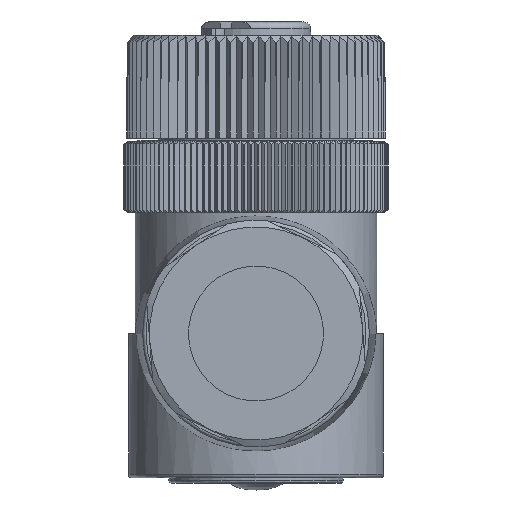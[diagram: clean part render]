
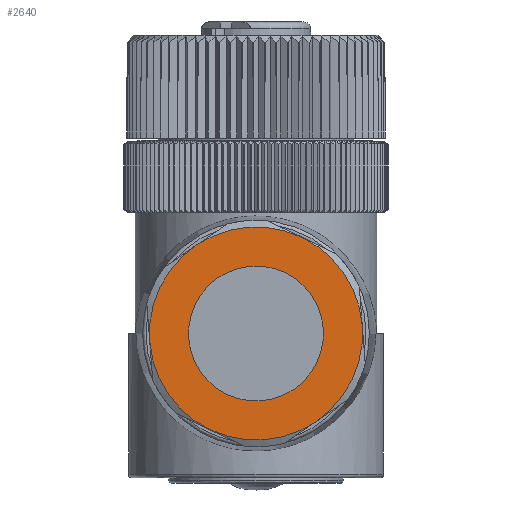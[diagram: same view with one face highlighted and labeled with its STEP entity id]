
A CAD part, front view. The second image highlights one B-rep face of the part: STEP entity #2640.
In plain terms, the highlighted planar face has unit normal (0, -1, 0).
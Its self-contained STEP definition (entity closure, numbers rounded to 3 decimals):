
#1995=CARTESIAN_POINT('',(-4.46,-30.,17.221));
#1996=VERTEX_POINT('',#1995);
#2019=CARTESIAN_POINT('',(-7.877,-30.,10.098));
#2020=VERTEX_POINT('',#2019);
#2034=CARTESIAN_POINT('',(0.0,-30.,10.7));
#2035=DIRECTION('',(0.,-1.,0.));
#2036=DIRECTION('',(0.076,0.,-0.997));
#2037=AXIS2_PLACEMENT_3D('',#2034,#2035,#2036);
#2038=CIRCLE('',#2037,7.9);
#2039=EDGE_CURVE('',#1996,#2020,#2038,.T.);
#2051=CARTESIAN_POINT('',(3.417,-30.,17.823));
#2052=VERTEX_POINT('',#2051);
#2088=CARTESIAN_POINT('',(0.0,-30.,10.7));
#2089=DIRECTION('',(0.,-1.,0.));
#2090=DIRECTION('',(0.076,0.,-0.997));
#2091=AXIS2_PLACEMENT_3D('',#2088,#2089,#2090);
#2092=CIRCLE('',#2091,7.9);
#2093=EDGE_CURVE('',#2052,#1996,#2092,.T.);
#2105=CARTESIAN_POINT('',(7.877,-30.,11.302));
#2106=VERTEX_POINT('',#2105);
#2142=CARTESIAN_POINT('',(0.0,-30.,10.7));
#2143=DIRECTION('',(0.,-1.,0.));
#2144=DIRECTION('',(0.076,0.,-0.997));
#2145=AXIS2_PLACEMENT_3D('',#2142,#2143,#2144);
#2146=CIRCLE('',#2145,7.9);
#2147=EDGE_CURVE('',#2106,#2052,#2146,.T.);
#2172=CARTESIAN_POINT('',(4.46,-30.,4.179));
#2173=VERTEX_POINT('',#2172);
#2174=CARTESIAN_POINT('',(0.0,-30.,10.7));
#2175=DIRECTION('',(0.,-1.,0.));
#2176=DIRECTION('',(0.076,0.,-0.997));
#2177=AXIS2_PLACEMENT_3D('',#2174,#2175,#2176);
#2178=CIRCLE('',#2177,7.9);
#2179=EDGE_CURVE('',#2173,#2106,#2178,.T.);
#2226=CARTESIAN_POINT('',(-3.417,-30.,3.577));
#2227=VERTEX_POINT('',#2226);
#2228=CARTESIAN_POINT('',(0.0,-30.,10.7));
#2229=DIRECTION('',(0.,-1.,0.));
#2230=DIRECTION('',(0.076,0.,-0.997));
#2231=AXIS2_PLACEMENT_3D('',#2228,#2229,#2230);
#2232=CIRCLE('',#2231,7.9);
#2233=EDGE_CURVE('',#2227,#2173,#2232,.T.);
#2280=CARTESIAN_POINT('',(0.0,-30.,10.7));
#2281=DIRECTION('',(0.,-1.,0.));
#2282=DIRECTION('',(0.076,0.,-0.997));
#2283=AXIS2_PLACEMENT_3D('',#2280,#2281,#2282);
#2284=CIRCLE('',#2283,7.9);
#2285=EDGE_CURVE('',#2020,#2227,#2284,.T.);
#2616=CARTESIAN_POINT('',(0.,-30.,10.7));
#2617=DIRECTION('',(0.0,1.0,0.0));
#2618=DIRECTION('',(0.997,0.0,0.076));
#2619=AXIS2_PLACEMENT_3D('',#2616,#2617,#2618);
#2620=PLANE('',#2619);
#2621=ORIENTED_EDGE('',*,*,#2285,.T.);
#2622=ORIENTED_EDGE('',*,*,#2233,.T.);
#2623=ORIENTED_EDGE('',*,*,#2179,.T.);
#2624=ORIENTED_EDGE('',*,*,#2147,.T.);
#2625=ORIENTED_EDGE('',*,*,#2093,.T.);
#2626=ORIENTED_EDGE('',*,*,#2039,.T.);
#2627=EDGE_LOOP('',(#2621,#2622,#2623,#2624,#2625,#2626));
#2628=FACE_OUTER_BOUND('',#2627,.T.);
#2629=CARTESIAN_POINT('',(4.985,-30.,11.081));
#2630=VERTEX_POINT('',#2629);
#2631=CARTESIAN_POINT('',(0.0,-30.,10.7));
#2632=DIRECTION('',(0.,1.0,0.));
#2633=DIRECTION('',(-0.997,0.,-0.076));
#2634=AXIS2_PLACEMENT_3D('',#2631,#2632,#2633);
#2635=CIRCLE('',#2634,5.);
#2636=EDGE_CURVE('',#2630,#2630,#2635,.T.);
#2637=ORIENTED_EDGE('',*,*,#2636,.T.);
#2638=EDGE_LOOP('',(#2637));
#2639=FACE_BOUND('',#2638,.T.);
#2640=ADVANCED_FACE('',(#2628,#2639),#2620,.F.);
